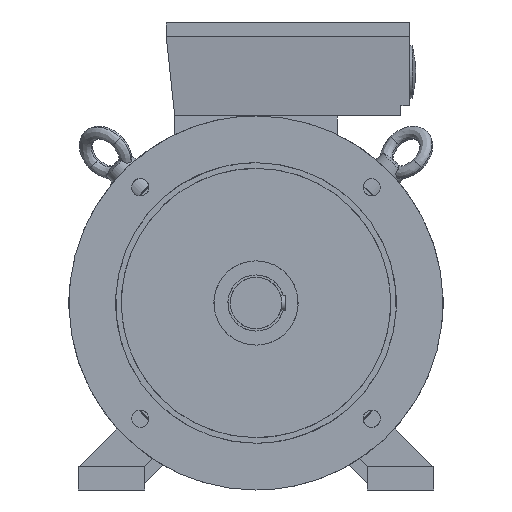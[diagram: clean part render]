
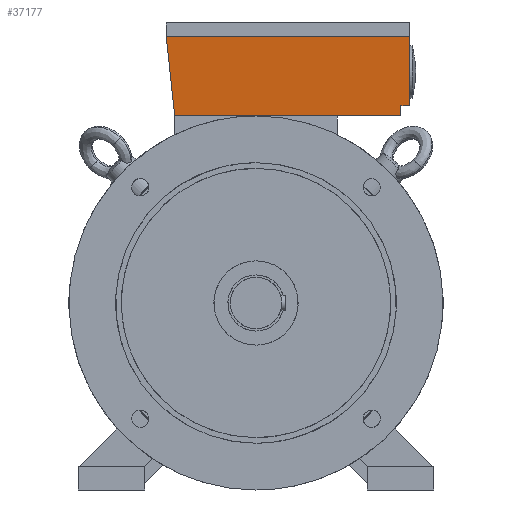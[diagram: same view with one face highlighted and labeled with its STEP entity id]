
A CAD part, left-side view. The second image highlights one B-rep face of the part: STEP entity #37177.
In plain terms, the highlighted planar face has unit normal (-0.995, 0, -0.096).
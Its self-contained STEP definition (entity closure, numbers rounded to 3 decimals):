
#5059 = CARTESIAN_POINT ( 'NONE',  ( 13., -164., 285. ) ) ;
#5061 = CARTESIAN_POINT ( 'NONE',  ( 20.139, -155., 211. ) ) ;
#5149 = CARTESIAN_POINT ( 'NONE',  ( 21.2, -155., 200. ) ) ;
#5159 = CARTESIAN_POINT ( 'NONE',  ( 21.2, 87., 200. ) ) ;
#6355 = LINE ( 'NONE', #6356, #14013 ) ;
#6356 = CARTESIAN_POINT ( 'NONE',  ( 13., 96., 285. ) ) ;
#6357 = DIRECTION ( 'NONE',  ( 0., -1., 0. ) ) ;
#7524 = CARTESIAN_POINT ( 'NONE',  ( 13., 96., 285. ) ) ;
#7536 = CARTESIAN_POINT ( 'NONE',  ( 20.139, -164., 211. ) ) ;
#9602 = EDGE_CURVE ( 'NONE', #24203, #35077, #6355, .T. ) ;
#9728 = EDGE_CURVE ( 'NONE', #35267, #24203, #32961, .T. ) ;
#9779 = EDGE_CURVE ( 'NONE', #35249, #35267, #33282, .T. ) ;
#9782 = EDGE_CURVE ( 'NONE', #24215, #35081, #33387, .T. ) ;
#9841 = EDGE_CURVE ( 'NONE', #35081, #35249, #34903, .T. ) ;
#10231 = EDGE_CURVE ( 'NONE', #35077, #24215, #29823, .T. ) ;
#13566 = VECTOR ( 'NONE', #29876, 1000. ) ;
#13804 = VECTOR ( 'NONE', #33392, 1000. ) ;
#13857 = VECTOR ( 'NONE', #32964, 1000. ) ;
#14000 = VECTOR ( 'NONE', #33293, 1000. ) ;
#14013 = VECTOR ( 'NONE', #6357, 1000. ) ;
#14246 = VECTOR ( 'NONE', #34905, 1000. ) ;
#14493 = EDGE_LOOP ( 'NONE', ( #14839, #14840, #14841, #14842, #14843, #14844 ) ) ;
#14839 = ORIENTED_EDGE ( 'NONE', *, *, #9782, .F. ) ;
#14840 = ORIENTED_EDGE ( 'NONE', *, *, #10231, .F. ) ;
#14841 = ORIENTED_EDGE ( 'NONE', *, *, #9602, .F. ) ;
#14842 = ORIENTED_EDGE ( 'NONE', *, *, #9728, .F. ) ;
#14843 = ORIENTED_EDGE ( 'NONE', *, *, #9779, .F. ) ;
#14844 = ORIENTED_EDGE ( 'NONE', *, *, #9841, .F. ) ;
#23742 = CARTESIAN_POINT ( 'NONE',  ( 13., 96., 285. ) ) ;
#23746 = FACE_OUTER_BOUND ( 'NONE', #14493, .T. ) ;
#23747 = PLANE ( 'NONE',  #27267 ) ;
#23749 = DIRECTION ( 'NONE',  ( 0.995, 0., 0.096 ) ) ;
#23750 = DIRECTION ( 'NONE',  ( 0.096, 0., -0.995 ) ) ;
#24203 = VERTEX_POINT ( 'NONE', #7524 ) ;
#24215 = VERTEX_POINT ( 'NONE', #7536 ) ;
#27267 = AXIS2_PLACEMENT_3D ( 'NONE', #23742, #23749, #23750 ) ;
#29823 = LINE ( 'NONE', #29875, #13566 ) ;
#29875 = CARTESIAN_POINT ( 'NONE',  ( 13., -164., 285. ) ) ;
#29876 = DIRECTION ( 'NONE',  ( 0.096, 0., -0.995 ) ) ;
#32961 = LINE ( 'NONE', #32963, #13857 ) ;
#32963 = CARTESIAN_POINT ( 'NONE',  ( 21.2, 87., 200. ) ) ;
#32964 = DIRECTION ( 'NONE',  ( -0.095, 0.105, 0.99 ) ) ;
#33282 = LINE ( 'NONE', #33292, #14000 ) ;
#33292 = CARTESIAN_POINT ( 'NONE',  ( 21.2, 0., 200. ) ) ;
#33293 = DIRECTION ( 'NONE',  ( 0., 1., 0. ) ) ;
#33387 = LINE ( 'NONE', #33391, #13804 ) ;
#33391 = CARTESIAN_POINT ( 'NONE',  ( 20.139, 96., 211. ) ) ;
#33392 = DIRECTION ( 'NONE',  ( 0., 1., 0. ) ) ;
#34903 = LINE ( 'NONE', #34904, #14246 ) ;
#34904 = CARTESIAN_POINT ( 'NONE',  ( 13., -155., 285. ) ) ;
#34905 = DIRECTION ( 'NONE',  ( 0.096, 0., -0.995 ) ) ;
#35077 = VERTEX_POINT ( 'NONE', #5059 ) ;
#35081 = VERTEX_POINT ( 'NONE', #5061 ) ;
#35249 = VERTEX_POINT ( 'NONE', #5149 ) ;
#35267 = VERTEX_POINT ( 'NONE', #5159 ) ;
#37177 = ADVANCED_FACE ( 'NONE', ( #23746 ), #23747, .F. ) ;
